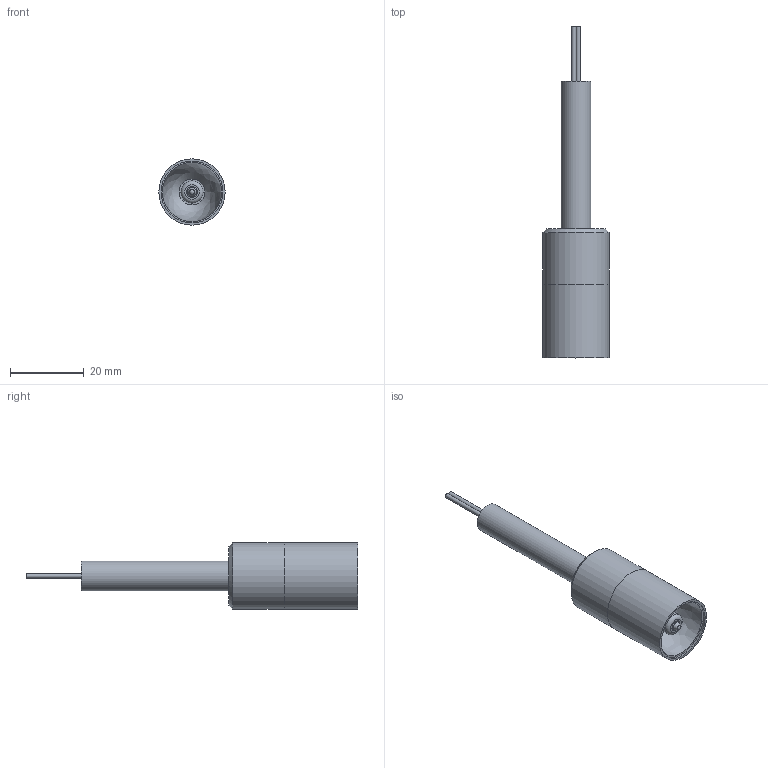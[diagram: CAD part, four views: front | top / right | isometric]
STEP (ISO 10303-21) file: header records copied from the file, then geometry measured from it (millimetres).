
FILE_DESCRIPTION(/* description */ (''),/* implementation_level */ '2;1');
FILE_NAME(/* name */ 'D:/ドキュメント/ACLT/その他/FTC_HP/HSH/3D/HSH18-RPL40_01 v2.step',/* time_stamp */ '2018-07-12T12:55:16+09:00',/* author */ ('j.masuoka@mbe.nifty.com'),/* organization */ (''),/* preprocessor_version */ 'ST-DEVELOPER v17',/* originating_system */ 'Autodesk Translation Framework v7.1.0.215',/* authorisation */ '');
FILE_SCHEMA (('AUTOMOTIVE_DESIGN { 1 0 10303 214 3 1 1 }'));
Length unit declared in the file: millimetre
Products named in the file (7): HSH18-RPL40_01; HSH18ベース v1; HSH18ランプ v1; HSH18フィラメント v1; pipe v1; lead v2; lead v2 (1)
Assembly tree (6 placements, depth 2):
  HSH18-RPL40_01
    HSH18ベース v1
    HSH18ランプ v1
    HSH18フィラメント v1
    pipe v1
    lead v2
    lead v2 (1)
Bounding box: 18 x 90 x 18 mm (x, y, z)
Volume: 7775.7 mm3; surface area: 7040 mm2
Topology: 7 solids, 7 shells, 47 faces, 110 edges, 86 vertices
Faces by surface type: plane 20, cylinder 12, torus 6, cone 5, sphere 3, bspline 1
Full cylindrical faces by diameter (mm): 1.2 x2, 1.68 x1, 4.7 x1, 6 x2, 8 x2, 15 x2, 18 x2
Entity records: 1742 total; most frequent: DIRECTION 321, CARTESIAN_POINT 282, ORIENTED_EDGE 220, AXIS2_PLACEMENT_3D 152, EDGE_CURVE 110, CIRCLE 92, VERTEX_POINT 86, EDGE_LOOP 60
